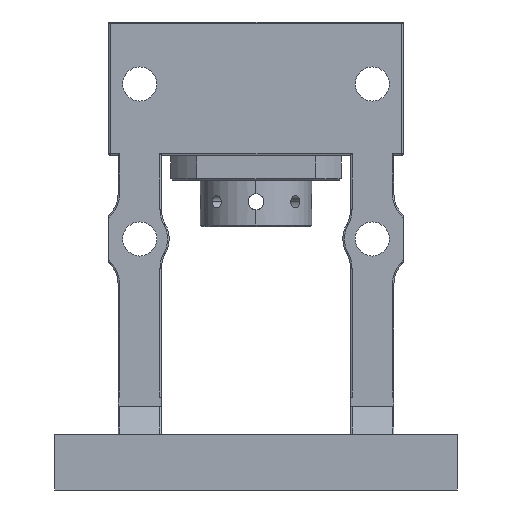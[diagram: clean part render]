
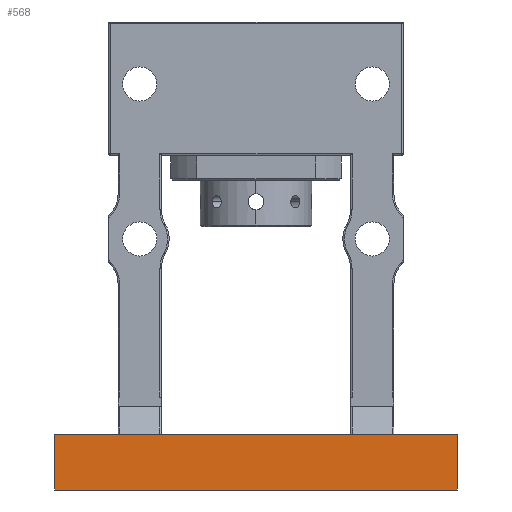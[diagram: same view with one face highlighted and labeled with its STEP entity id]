
A CAD part, front view. The second image highlights one B-rep face of the part: STEP entity #568.
In plain terms, the highlighted planar face has unit normal (0, -1, 0).
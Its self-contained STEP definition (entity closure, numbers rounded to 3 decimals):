
#224 = ORIENTED_EDGE ( 'NONE', *, *, #11561, .F. ) ;
#568 = ADVANCED_FACE ( 'NONE', ( #6212 ), #11171, .F. ) ;
#623 = AXIS2_PLACEMENT_3D ( 'NONE', #4412, #4325, #4370 ) ;
#872 = CARTESIAN_POINT ( 'NONE',  ( 65., -63., -124.5 ) ) ;
#1072 = AXIS2_PLACEMENT_3D ( 'NONE', #7494, #2019, #8397 ) ;
#1189 = VECTOR ( 'NONE', #5509, 1000. ) ;
#1717 = EDGE_CURVE ( 'NONE', #6016, #5883, #5231, .T. ) ;
#1851 = DIRECTION ( 'NONE',  ( 0., 0., 1. ) ) ;
#1965 = CARTESIAN_POINT ( 'NONE',  ( -65., -63., -124.5 ) ) ;
#1994 = ORIENTED_EDGE ( 'NONE', *, *, #7937, .T. ) ;
#2019 = DIRECTION ( 'NONE',  ( 0., -1., 0. ) ) ;
#2358 = VECTOR ( 'NONE', #1851, 1000. ) ;
#2722 = VECTOR ( 'NONE', #7118, 1000. ) ;
#3177 = CIRCLE ( 'NONE', #1072, 0.5 ) ;
#3558 = CARTESIAN_POINT ( 'NONE',  ( 64.5, -63., -124. ) ) ;
#3594 = ORIENTED_EDGE ( 'NONE', *, *, #5664, .F. ) ;
#3718 = VERTEX_POINT ( 'NONE', #5170 ) ;
#3838 = ORIENTED_EDGE ( 'NONE', *, *, #1717, .T. ) ;
#4133 = AXIS2_PLACEMENT_3D ( 'NONE', #11058, #11786, #11648 ) ;
#4281 = EDGE_CURVE ( 'NONE', #4356, #6016, #5598, .T. ) ;
#4325 = DIRECTION ( 'NONE',  ( 0., -1., 0. ) ) ;
#4356 = VERTEX_POINT ( 'NONE', #3558 ) ;
#4370 = DIRECTION ( 'NONE',  ( 0., 0., 1. ) ) ;
#4410 = VERTEX_POINT ( 'NONE', #872 ) ;
#4412 = CARTESIAN_POINT ( 'NONE',  ( -64.5, -63., -124.5 ) ) ;
#4771 = CARTESIAN_POINT ( 'NONE',  ( 65., -63., -144. ) ) ;
#5170 = CARTESIAN_POINT ( 'NONE',  ( -65., -63., -142. ) ) ;
#5231 = CIRCLE ( 'NONE', #623, 0.5 ) ;
#5397 = VECTOR ( 'NONE', #10085, 1000. ) ;
#5410 = ORIENTED_EDGE ( 'NONE', *, *, #4281, .T. ) ;
#5469 = CARTESIAN_POINT ( 'NONE',  ( -65., -63., -124. ) ) ;
#5509 = DIRECTION ( 'NONE',  ( -1., 0., 0. ) ) ;
#5598 = LINE ( 'NONE', #5469, #1189 ) ;
#5664 = EDGE_CURVE ( 'NONE', #5718, #3718, #7524, .T. ) ;
#5718 = VERTEX_POINT ( 'NONE', #5764 ) ;
#5764 = CARTESIAN_POINT ( 'NONE',  ( 65., -63., -142. ) ) ;
#5883 = VERTEX_POINT ( 'NONE', #1965 ) ;
#6016 = VERTEX_POINT ( 'NONE', #9877 ) ;
#6212 = FACE_OUTER_BOUND ( 'NONE', #9301, .T. ) ;
#7118 = DIRECTION ( 'NONE',  ( -1., 0., 0. ) ) ;
#7163 = CARTESIAN_POINT ( 'NONE',  ( 65., -63., -142. ) ) ;
#7342 = CARTESIAN_POINT ( 'NONE',  ( -65., -63., -144. ) ) ;
#7494 = CARTESIAN_POINT ( 'NONE',  ( 64.5, -63., -124.5 ) ) ;
#7524 = LINE ( 'NONE', #7163, #2722 ) ;
#7937 = EDGE_CURVE ( 'NONE', #4410, #4356, #3177, .T. ) ;
#8397 = DIRECTION ( 'NONE',  ( 0., 0., 1. ) ) ;
#8414 = ORIENTED_EDGE ( 'NONE', *, *, #11043, .T. ) ;
#9301 = EDGE_LOOP ( 'NONE', ( #224, #3594, #8414, #1994, #5410, #3838 ) ) ;
#9573 = LINE ( 'NONE', #7342, #2358 ) ;
#9853 = LINE ( 'NONE', #4771, #5397 ) ;
#9877 = CARTESIAN_POINT ( 'NONE',  ( -64.5, -63., -124. ) ) ;
#10085 = DIRECTION ( 'NONE',  ( 0., 0., 1. ) ) ;
#11043 = EDGE_CURVE ( 'NONE', #5718, #4410, #9853, .T. ) ;
#11058 = CARTESIAN_POINT ( 'NONE',  ( -65., -63., -144. ) ) ;
#11171 = PLANE ( 'NONE',  #4133 ) ;
#11561 = EDGE_CURVE ( 'NONE', #3718, #5883, #9573, .T. ) ;
#11648 = DIRECTION ( 'NONE',  ( 0., 0., 1. ) ) ;
#11786 = DIRECTION ( 'NONE',  ( 0., 1., 0. ) ) ;
